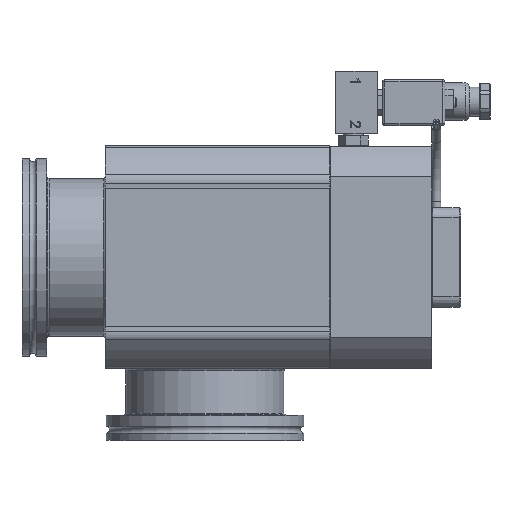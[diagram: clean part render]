
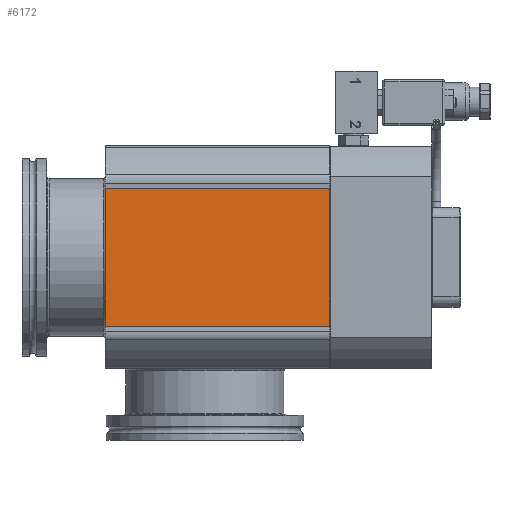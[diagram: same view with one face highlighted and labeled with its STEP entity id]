
A CAD part, top view. The second image highlights one B-rep face of the part: STEP entity #6172.
In plain terms, the highlighted planar face has unit normal (0, 0, 1) as drawn and (1, 0, 0) by its records, which use the part's own axes.
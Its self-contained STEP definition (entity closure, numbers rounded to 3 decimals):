
#3590=LINE('',#20424,#4496);
#3591=LINE('',#20469,#4497);
#3594=LINE('',#20476,#4500);
#3614=LINE('',#20544,#4520);
#4496=VECTOR('',#16959,1.);
#4497=VECTOR('',#17012,1.);
#4500=VECTOR('',#17019,1.);
#4520=VECTOR('',#17101,1.);
#6172=ADVANCED_FACE('',(#7175),#6792,.F.);
#6792=PLANE('',#15347);
#7175=FACE_OUTER_BOUND('',#7909,.T.);
#7909=EDGE_LOOP('',(#9250,#9251,#9252,#9253));
#9250=ORIENTED_EDGE('',*,*,#13236,.F.);
#9251=ORIENTED_EDGE('',*,*,#13202,.T.);
#9252=ORIENTED_EDGE('',*,*,#13180,.F.);
#9253=ORIENTED_EDGE('',*,*,#13198,.T.);
#12009=VERTEX_POINT('',#20423);
#12010=VERTEX_POINT('',#20425);
#12026=VERTEX_POINT('',#20467);
#12029=VERTEX_POINT('',#20474);
#13180=EDGE_CURVE('',#12009,#12010,#3590,.T.);
#13198=EDGE_CURVE('',#12009,#12026,#3591,.T.);
#13202=EDGE_CURVE('',#12029,#12010,#3594,.T.);
#13236=EDGE_CURVE('',#12029,#12026,#3614,.T.);
#15347=AXIS2_PLACEMENT_3D('',#20545,#17102,#17103);
#16959=DIRECTION('',(0.,0.,-1.));
#17012=DIRECTION('',(0.,-1.,0.));
#17019=DIRECTION('',(0.,1.,0.));
#17101=DIRECTION('',(0.,0.,1.));
#17102=DIRECTION('',(-1.,0.,0.));
#17103=DIRECTION('',(0.,0.,1.));
#20423=CARTESIAN_POINT('',(53.5,148.,33.11));
#20424=CARTESIAN_POINT('',(53.5,148.,34.742));
#20425=CARTESIAN_POINT('',(53.5,148.,-33.11));
#20467=CARTESIAN_POINT('',(53.5,40.,33.11));
#20469=CARTESIAN_POINT('',(53.5,0.,33.11));
#20474=CARTESIAN_POINT('',(53.5,40.,-33.11));
#20476=CARTESIAN_POINT('',(53.5,157.,-33.11));
#20544=CARTESIAN_POINT('',(53.5,40.,34.742));
#20545=CARTESIAN_POINT('',(53.5,157.,34.742));
